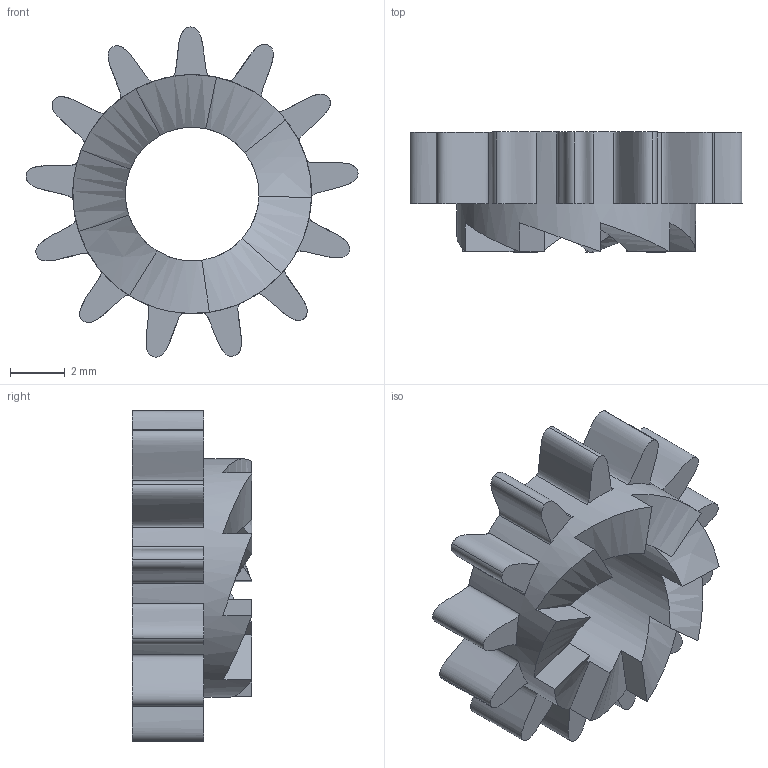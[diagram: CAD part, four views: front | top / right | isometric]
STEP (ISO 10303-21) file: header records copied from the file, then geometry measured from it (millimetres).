
FILE_DESCRIPTION(/* description */ (''),/* implementation_level */ '2;1');
FILE_NAME(/* name */ 'D:\Desktop\WatchCAdFiles\print2endTime\3.5\Solid17.stp',/* time_stamp */ '2019-05-02T16:58:44+02:00',/* author */ ('fkhad'),/* organization */ (''),/* preprocessor_version */ 'ST-DEVELOPER v17',/* originating_system */ 'Autodesk Inventor 2018',/* authorisation */ '');
FILE_SCHEMA (('AUTOMOTIVE_DESIGN { 1 0 10303 214 3 1 1 }'));
Length unit declared in the file: inch
Products named in the file (1): Solid17
Bounding box: 12.17 x 4.39 x 12.1 mm (x, y, z)
Volume: 212.4 mm3; surface area: 404.7 mm2
Topology: 1 solids, 1 shells, 60 faces, 178 edges, 119 vertices
Faces by surface type: bspline 35, plane 23, cylinder 2
Full cylindrical faces by diameter (mm): 4.9 x1, 8.75 x1
Entity records: 2503 total; most frequent: CARTESIAN_POINT 1026, ORIENTED_EDGE 356, EDGE_CURVE 178, DIRECTION 178, VERTEX_POINT 119, B_SPLINE_CURVE_WITH_KNOTS 81, LINE 68, VECTOR 68
